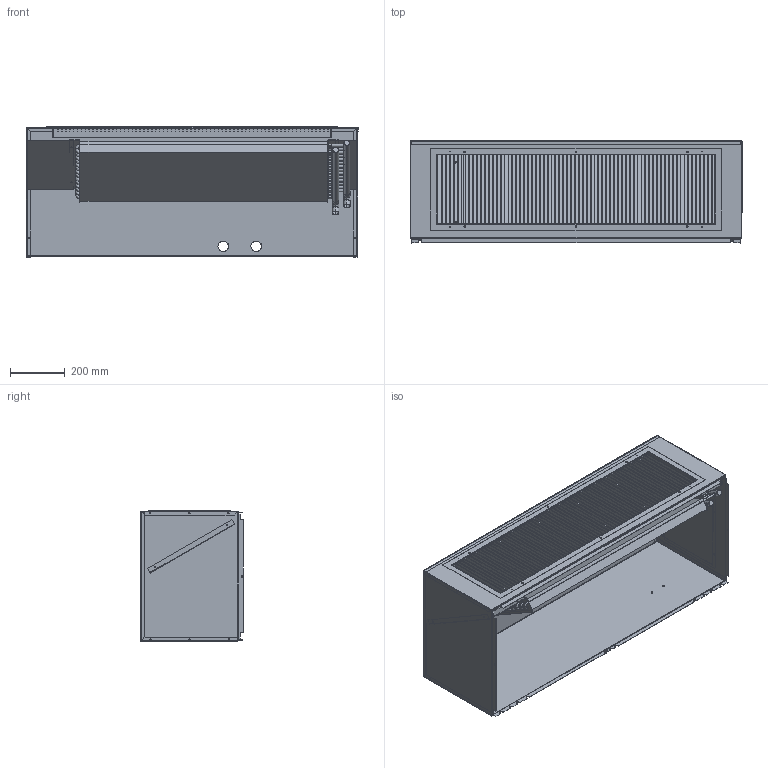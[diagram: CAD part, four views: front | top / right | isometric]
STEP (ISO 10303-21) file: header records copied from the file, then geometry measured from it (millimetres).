
FILE_DESCRIPTION (( 'STEP AP214' ), '1' );
FILE_NAME ('QPBHW48-F-X.STEP', '2016-07-14T18:30:46', ( 'BMC' ), ( 'Bard Manufacturing Co., Inc.' ), 'SwSTEP 2.0', 'SolidWorks 2016', '' );
FILE_SCHEMA (( 'AUTOMOTIVE_DESIGN' ));
Length unit declared in the file: inch
Products named in the file (18): 6011-012,; 114-125; 806-0605; 142-074; 100-389 A; 104-1065; 104-1094 A; 5060-110; 100-390 A; 814-0284; QPBHW48-F-X; 850-0002; 916-0129; 174-075 for 5060-110; 137Y435; 108-150; 7051-045; 137X435
Assembly tree (44 placements, depth 4):
  QPBHW48-F-X
    108-150
    100-389 A
    100-390 A
    5060-110
      174-075 for 5060-110
      137Y435
      137X435
      806-0605  x14
      916-0129  x2
        814-0284
        6011-012,
        850-0002
    104-1065
    142-074
    104-1094 A
    114-125
    7051-045
Bounding box: 1212.85 x 374.76 x 475.98 mm (x, y, z)
Surface area: 7900414.3 mm2 (no closed solid volume)
Topology: 0 solids, 58 shells, 2395 faces, 6248 edges, 3943 vertices
Faces by surface type: cylinder 1162, plane 741, bspline 468, cone 16, torus 8
Entity records: 48335 total; most frequent: CARTESIAN_POINT 10494, DIRECTION 8101, ORIENTED_EDGE 7752, EDGE_CURVE 3876, AXIS2_PLACEMENT_3D 3012, VERTEX_POINT 2469, VECTOR 2077, LINE 2077
